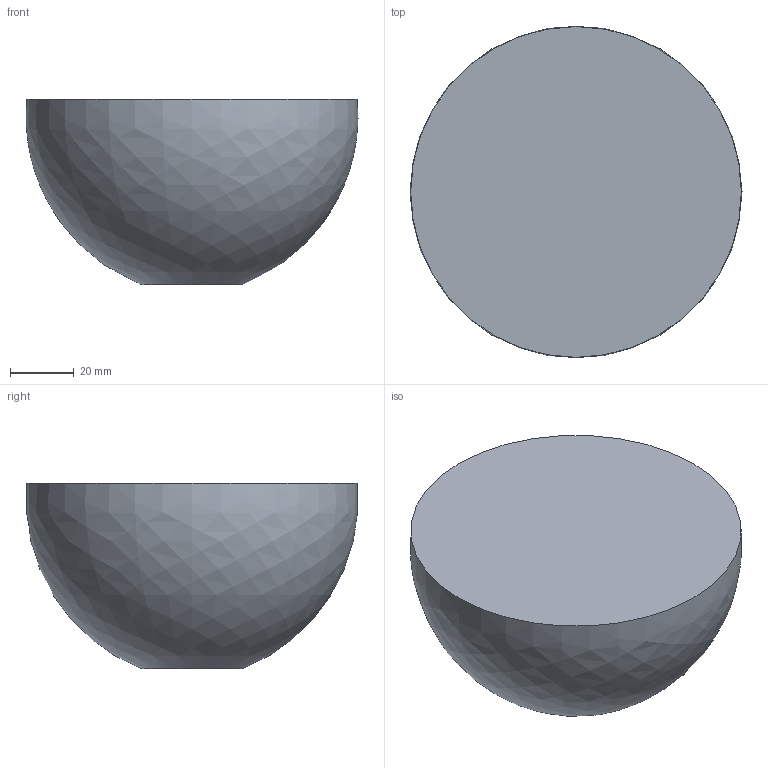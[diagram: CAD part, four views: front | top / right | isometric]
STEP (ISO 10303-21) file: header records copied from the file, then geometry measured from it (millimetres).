
FILE_DESCRIPTION(('FreeCAD Model'),'2;1');
FILE_NAME('Open CASCADE Shape Model','2024-02-07T13:29:39',('Author'),( ''),'Open CASCADE STEP processor 7.7','FreeCAD','Unknown');
FILE_SCHEMA(('AUTOMOTIVE_DESIGN { 1 0 10303 214 1 1 1 1 }'));
Length unit declared in the file: millimetre
Products named in the file (1): Revolve
Bounding box: 104.42 x 104.13 x 58.23 mm (x, y, z)
Volume: 357433 mm3; surface area: 27926.9 mm2
Topology: 1 solids, 1 shells, 3 faces, 3 edges, 2 vertices
Faces by surface type: plane 2, revolution 1
Entity records: 85 total; most frequent: DIRECTION 15, CARTESIAN_POINT 10, AXIS2_PLACEMENT_3D 7, ORIENTED_EDGE 6, CIRCLE 4, ADVANCED_FACE 3, FACE_BOUND 3, EDGE_LOOP 3
